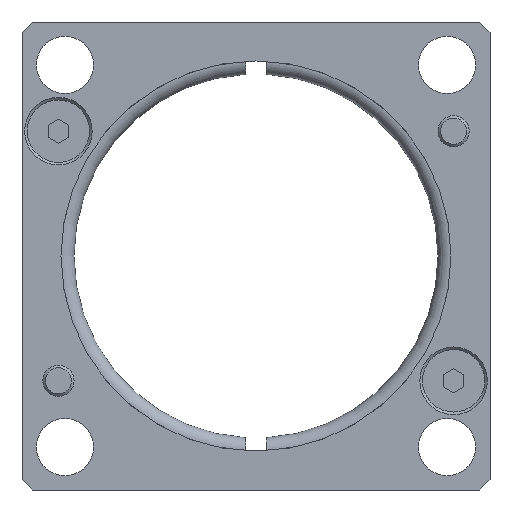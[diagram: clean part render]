
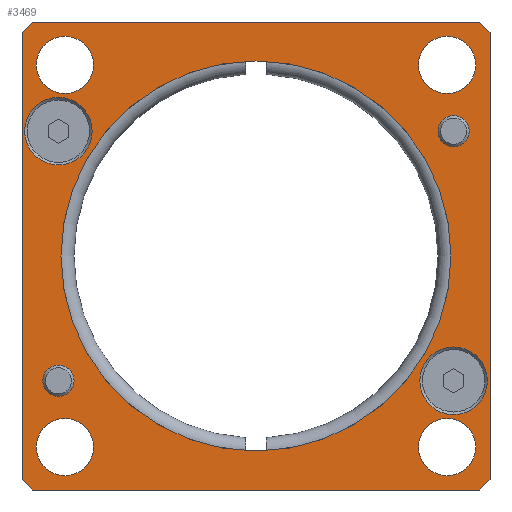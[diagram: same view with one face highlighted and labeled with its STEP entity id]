
A CAD part, front view. The second image highlights one B-rep face of the part: STEP entity #3469.
In plain terms, the highlighted planar face has unit normal (0, -1, 0) as drawn and (0, 0, -1) by its records, which use the part's own axes.
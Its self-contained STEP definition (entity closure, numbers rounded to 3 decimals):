
#126=FACE_BOUND('',#416,.T.);
#127=FACE_BOUND('',#417,.T.);
#128=FACE_BOUND('',#418,.T.);
#129=FACE_BOUND('',#419,.T.);
#130=FACE_BOUND('',#420,.T.);
#131=FACE_BOUND('',#421,.T.);
#132=FACE_BOUND('',#422,.T.);
#133=FACE_BOUND('',#423,.T.);
#134=FACE_BOUND('',#424,.T.);
#160=CIRCLE('',#3738,37.5);
#168=CIRCLE('',#3748,6.5);
#170=CIRCLE('',#3751,6.5);
#171=CIRCLE('',#3752,3.);
#172=CIRCLE('',#3753,3.);
#173=CIRCLE('',#3754,5.5);
#174=CIRCLE('',#3755,5.5);
#175=CIRCLE('',#3756,5.5);
#176=CIRCLE('',#3757,5.5);
#218=FACE_OUTER_BOUND('',#415,.T.);
#415=EDGE_LOOP('',(#2341,#2342,#2343,#2344,#2345,#2346,#2347,#2348));
#416=EDGE_LOOP('',(#2349));
#417=EDGE_LOOP('',(#2350));
#418=EDGE_LOOP('',(#2351));
#419=EDGE_LOOP('',(#2352));
#420=EDGE_LOOP('',(#2353));
#421=EDGE_LOOP('',(#2354));
#422=EDGE_LOOP('',(#2355));
#423=EDGE_LOOP('',(#2356));
#424=EDGE_LOOP('',(#2357));
#645=LINE('',#4661,#965);
#646=LINE('',#4663,#966);
#647=LINE('',#4665,#967);
#648=LINE('',#4667,#968);
#649=LINE('',#4669,#969);
#650=LINE('',#4671,#970);
#651=LINE('',#4673,#971);
#652=LINE('',#4674,#972);
#965=VECTOR('',#3943,10.);
#966=VECTOR('',#3944,10.);
#967=VECTOR('',#3945,10.);
#968=VECTOR('',#3946,10.);
#969=VECTOR('',#3947,10.);
#970=VECTOR('',#3948,10.);
#971=VECTOR('',#3949,10.);
#972=VECTOR('',#3950,10.);
#1448=VERTEX_POINT('',#4637);
#1452=VERTEX_POINT('',#4653);
#1454=VERTEX_POINT('',#4659);
#1455=VERTEX_POINT('',#4660);
#1456=VERTEX_POINT('',#4662);
#1457=VERTEX_POINT('',#4664);
#1458=VERTEX_POINT('',#4666);
#1459=VERTEX_POINT('',#4668);
#1460=VERTEX_POINT('',#4670);
#1461=VERTEX_POINT('',#4672);
#1462=VERTEX_POINT('',#4675);
#1463=VERTEX_POINT('',#4677);
#1464=VERTEX_POINT('',#4679);
#1465=VERTEX_POINT('',#4681);
#1466=VERTEX_POINT('',#4683);
#1467=VERTEX_POINT('',#4685);
#1468=VERTEX_POINT('',#4687);
#1795=EDGE_CURVE('',#1448,#1448,#160,.T.);
#1805=EDGE_CURVE('',#1452,#1452,#168,.T.);
#1808=EDGE_CURVE('',#1454,#1455,#645,.T.);
#1809=EDGE_CURVE('',#1454,#1456,#646,.T.);
#1810=EDGE_CURVE('',#1457,#1456,#647,.T.);
#1811=EDGE_CURVE('',#1457,#1458,#648,.T.);
#1812=EDGE_CURVE('',#1459,#1458,#649,.T.);
#1813=EDGE_CURVE('',#1459,#1460,#650,.T.);
#1814=EDGE_CURVE('',#1461,#1460,#651,.T.);
#1815=EDGE_CURVE('',#1461,#1455,#652,.T.);
#1816=EDGE_CURVE('',#1462,#1462,#170,.T.);
#1817=EDGE_CURVE('',#1463,#1463,#171,.T.);
#1818=EDGE_CURVE('',#1464,#1464,#172,.T.);
#1819=EDGE_CURVE('',#1465,#1465,#173,.T.);
#1820=EDGE_CURVE('',#1466,#1466,#174,.T.);
#1821=EDGE_CURVE('',#1467,#1467,#175,.T.);
#1822=EDGE_CURVE('',#1468,#1468,#176,.T.);
#2341=ORIENTED_EDGE('',*,*,#1808,.F.);
#2342=ORIENTED_EDGE('',*,*,#1809,.T.);
#2343=ORIENTED_EDGE('',*,*,#1810,.F.);
#2344=ORIENTED_EDGE('',*,*,#1811,.T.);
#2345=ORIENTED_EDGE('',*,*,#1812,.F.);
#2346=ORIENTED_EDGE('',*,*,#1813,.T.);
#2347=ORIENTED_EDGE('',*,*,#1814,.F.);
#2348=ORIENTED_EDGE('',*,*,#1815,.T.);
#2349=ORIENTED_EDGE('',*,*,#1816,.F.);
#2350=ORIENTED_EDGE('',*,*,#1817,.T.);
#2351=ORIENTED_EDGE('',*,*,#1818,.T.);
#2352=ORIENTED_EDGE('',*,*,#1795,.T.);
#2353=ORIENTED_EDGE('',*,*,#1819,.T.);
#2354=ORIENTED_EDGE('',*,*,#1820,.T.);
#2355=ORIENTED_EDGE('',*,*,#1821,.T.);
#2356=ORIENTED_EDGE('',*,*,#1822,.T.);
#2357=ORIENTED_EDGE('',*,*,#1805,.F.);
#3357=PLANE('',#3750);
#3469=ADVANCED_FACE('',(#218,#126,#127,#128,#129,#130,#131,#132,#133,#134),
#3357,.F.);
#3738=AXIS2_PLACEMENT_3D('',#4638,#3914,#3915);
#3748=AXIS2_PLACEMENT_3D('',#4654,#3936,#3937);
#3750=AXIS2_PLACEMENT_3D('',#4658,#3941,#3942);
#3751=AXIS2_PLACEMENT_3D('',#4676,#3951,#3952);
#3752=AXIS2_PLACEMENT_3D('',#4678,#3953,#3954);
#3753=AXIS2_PLACEMENT_3D('',#4680,#3955,#3956);
#3754=AXIS2_PLACEMENT_3D('',#4682,#3957,#3958);
#3755=AXIS2_PLACEMENT_3D('',#4684,#3959,#3960);
#3756=AXIS2_PLACEMENT_3D('',#4686,#3961,#3962);
#3757=AXIS2_PLACEMENT_3D('',#4688,#3963,#3964);
#3914=DIRECTION('center_axis',(0.,0.,1.));
#3915=DIRECTION('ref_axis',(-1.,0.,0.));
#3936=DIRECTION('center_axis',(0.,0.,-1.));
#3937=DIRECTION('ref_axis',(1.,0.,0.));
#3941=DIRECTION('center_axis',(0.,0.,1.));
#3942=DIRECTION('ref_axis',(1.,0.,0.));
#3943=DIRECTION('',(0.707,0.707,0.));
#3944=DIRECTION('',(-1.,0.,0.));
#3945=DIRECTION('',(0.707,-0.707,0.));
#3946=DIRECTION('',(0.,1.,0.));
#3947=DIRECTION('',(-0.707,-0.707,0.));
#3948=DIRECTION('',(1.,0.,0.));
#3949=DIRECTION('',(-0.707,0.707,0.));
#3950=DIRECTION('',(0.,-1.,0.));
#3951=DIRECTION('center_axis',(0.,0.,-1.));
#3952=DIRECTION('ref_axis',(1.,0.,0.));
#3953=DIRECTION('center_axis',(0.,0.,1.));
#3954=DIRECTION('ref_axis',(1.,0.,0.));
#3955=DIRECTION('center_axis',(0.,0.,1.));
#3956=DIRECTION('ref_axis',(1.,0.,0.));
#3957=DIRECTION('center_axis',(0.,0.,1.));
#3958=DIRECTION('ref_axis',(-1.,0.,0.));
#3959=DIRECTION('center_axis',(0.,0.,1.));
#3960=DIRECTION('ref_axis',(-1.,0.,0.));
#3961=DIRECTION('center_axis',(0.,0.,1.));
#3962=DIRECTION('ref_axis',(-1.,0.,0.));
#3963=DIRECTION('center_axis',(0.,0.,1.));
#3964=DIRECTION('ref_axis',(-1.,0.,0.));
#4637=CARTESIAN_POINT('',(37.5,0.,0.));
#4638=CARTESIAN_POINT('Origin',(0.,0.,0.));
#4653=CARTESIAN_POINT('',(31.5,24.,0.));
#4654=CARTESIAN_POINT('Origin',(38.,24.,0.));
#4658=CARTESIAN_POINT('Origin',(0.,0.,
0.));
#4659=CARTESIAN_POINT('',(43.,-45.,0.));
#4660=CARTESIAN_POINT('',(45.,-43.,0.));
#4661=CARTESIAN_POINT('',(44.,-44.,0.));
#4662=CARTESIAN_POINT('',(-43.,-45.,0.));
#4663=CARTESIAN_POINT('',(45.,-45.,0.));
#4664=CARTESIAN_POINT('',(-45.,-43.,0.));
#4665=CARTESIAN_POINT('',(-44.,-44.,0.));
#4666=CARTESIAN_POINT('',(-45.,43.,0.));
#4667=CARTESIAN_POINT('',(-45.,-45.,0.));
#4668=CARTESIAN_POINT('',(-43.,45.,0.));
#4669=CARTESIAN_POINT('',(-44.,44.,0.));
#4670=CARTESIAN_POINT('',(43.,45.,0.));
#4671=CARTESIAN_POINT('',(-45.,45.,0.));
#4672=CARTESIAN_POINT('',(45.,43.,0.));
#4673=CARTESIAN_POINT('',(44.,44.,0.));
#4674=CARTESIAN_POINT('',(45.,45.,0.));
#4675=CARTESIAN_POINT('',(-44.5,-24.,0.));
#4676=CARTESIAN_POINT('Origin',(-38.,-24.,0.));
#4677=CARTESIAN_POINT('',(35.,-24.,0.));
#4678=CARTESIAN_POINT('Origin',(38.,-24.,0.));
#4679=CARTESIAN_POINT('',(-41.,24.,0.));
#4680=CARTESIAN_POINT('Origin',(-38.,24.,0.));
#4681=CARTESIAN_POINT('',(42.25,-36.75,0.));
#4682=CARTESIAN_POINT('Origin',(36.75,-36.75,0.));
#4683=CARTESIAN_POINT('',(-31.25,-36.75,0.));
#4684=CARTESIAN_POINT('Origin',(-36.75,-36.75,0.));
#4685=CARTESIAN_POINT('',(42.25,36.75,0.));
#4686=CARTESIAN_POINT('Origin',(36.75,36.75,0.));
#4687=CARTESIAN_POINT('',(-31.25,36.75,0.));
#4688=CARTESIAN_POINT('Origin',(-36.75,36.75,0.));
